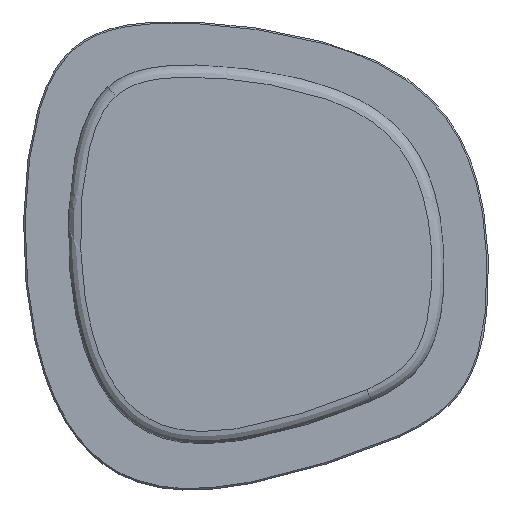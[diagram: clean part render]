
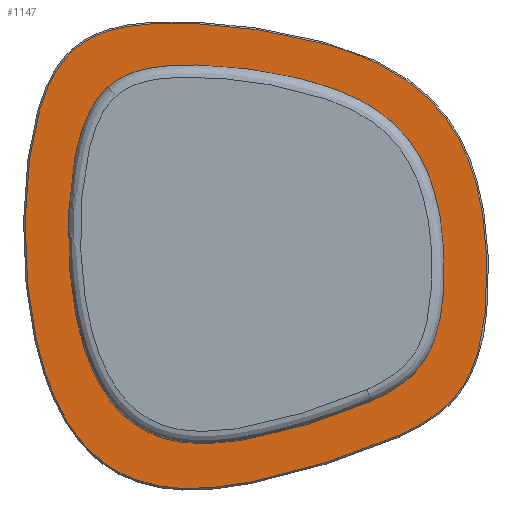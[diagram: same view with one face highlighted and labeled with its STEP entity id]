
A CAD part, top view. The second image highlights one B-rep face of the part: STEP entity #1147.
In plain terms, the highlighted planar face has unit normal (0, 0, 1).
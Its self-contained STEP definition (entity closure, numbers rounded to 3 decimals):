
#73=B_SPLINE_CURVE_WITH_KNOTS('',3,(#9728,#9729,#9730,#9731,#9732,#9733,
#9734,#9735,#9736,#9737,#9738,#9739,#9740,#9741,#9742,#9743,#9744,#9745,
#9746,#9747,#9748,#9749,#9750,#9751,#9752,#9753,#9754,#9755,#9756,#9757,
#9758,#9759,#9760,#9761,#9762,#9763,#9764,#9765),.UNSPECIFIED.,.F.,.F.,
(4,1,1,1,1,1,1,1,1,1,1,1,1,1,1,1,1,1,1,1,1,1,1,1,1,1,1,1,1,1,1,1,1,1,1,
4),(0.,11.586,23.172,36.366,49.56,
80.641,97.985,115.33,133.346,151.363,
168.893,186.422,219.047,234.185,249.323,
264.049,278.775,293.869,308.962,339.991,
355.234,370.478,384.53,398.582,423.123,
428.447,433.771,439.095,444.419,454.543,
459.605,464.667,470.221,475.776,486.884,
499.933),.UNSPECIFIED.);
#81=B_SPLINE_CURVE_WITH_KNOTS('',3,(#9866,#9867,#9868,#9869,#9870,#9871,
#9872,#9873,#9874,#9875,#9876,#9877,#9878,#9879,#9880,#9881,#9882,#9883,
#9884,#9885,#9886,#9887,#9888,#9889,#9890,#9891,#9892,#9893,#9894,#9895,
#9896,#9897,#9898,#9899),.UNSPECIFIED.,.F.,.F.,(4,1,1,1,1,1,1,1,1,1,1,1,
1,1,1,1,1,1,1,1,1,1,1,1,1,1,1,1,1,1,1,4),(499.933,512.982,
520.527,528.071,543.16,559.721,576.282,
593.33,610.378,626.855,643.333,658.713,
674.093,689.017,703.941,720.008,736.075,
754.493,772.911,793.592,814.274,835.998,
857.723,899.662,908.91,918.158,927.406,
936.654,951.755,966.855,979.106,991.356),
 .UNSPECIFIED.);
#1147=ADVANCED_FACE('',(#1654),#7482,.T.);
#1654=FACE_OUTER_BOUND('',#2161,.T.);
#2161=EDGE_LOOP('',(#2695,#2696));
#2695=ORIENTED_EDGE('',*,*,#5102,.F.);
#2696=ORIENTED_EDGE('',*,*,#5094,.F.);
#5094=EDGE_CURVE('',#6736,#6741,#73,.T.);
#5102=EDGE_CURVE('',#6741,#6736,#81,.T.);
#6736=VERTEX_POINT('',#9688);
#6741=VERTEX_POINT('',#9693);
#7482=PLANE('',#7958);
#7958=AXIS2_PLACEMENT_3D('',#9334,#8527,$);
#8527=DIRECTION('',(0.,0.,1.));
#9334=CARTESIAN_POINT('',(-178.075,193.173,8.));
#9688=CARTESIAN_POINT('',(-107.392,136.376,8.));
#9693=CARTESIAN_POINT('',(104.549,-115.299,8.));
#9728=CARTESIAN_POINT('',(-107.392,136.376,8.));
#9729=CARTESIAN_POINT('',(-104.507,138.943,8.));
#9730=CARTESIAN_POINT('',(-98.177,143.447,8.));
#9731=CARTESIAN_POINT('',(-87.049,148.379,8.));
#9732=CARTESIAN_POINT('',(-74.757,151.54,8.));
#9733=CARTESIAN_POINT('',(-55.743,154.065,8.));
#9734=CARTESIAN_POINT('',(-35.152,154.128,8.));
#9735=CARTESIAN_POINT('',(-13.282,152.742,8.));
#9736=CARTESIAN_POINT('',(4.196,150.849,8.));
#9737=CARTESIAN_POINT('',(21.796,148.244,8.));
#9738=CARTESIAN_POINT('',(39.329,144.833,8.));
#9739=CARTESIAN_POINT('',(56.506,140.568,8.));
#9740=CARTESIAN_POINT('',(78.019,133.746,8.));
#9741=CARTESIAN_POINT('',(97.955,124.772,8.));
#9742=CARTESIAN_POINT('',(115.328,112.931,8.));
#9743=CARTESIAN_POINT('',(126.519,102.899,8.));
#9744=CARTESIAN_POINT('',(136.109,91.488,8.));
#9745=CARTESIAN_POINT('',(144.01,78.879,8.));
#9746=CARTESIAN_POINT('',(150.289,65.258,8.));
#9747=CARTESIAN_POINT('',(156.726,45.864,8.));
#9748=CARTESIAN_POINT('',(160.427,25.678,8.));
#9749=CARTESIAN_POINT('',(162.179,5.248,8.));
#9750=CARTESIAN_POINT('',(162.582,-9.603,8.));
#9751=CARTESIAN_POINT('',(162.195,-24.051,8.));
#9752=CARTESIAN_POINT('',(160.704,-41.542,8.));
#9753=CARTESIAN_POINT('',(158.056,-55.985,8.));
#9754=CARTESIAN_POINT('',(154.423,-67.155,8.));
#9755=CARTESIAN_POINT('',(152.469,-72.106,8.));
#9756=CARTESIAN_POINT('',(150.207,-76.932,8.));
#9757=CARTESIAN_POINT('',(146.812,-82.971,8.));
#9758=CARTESIAN_POINT('',(142.796,-88.529,8.));
#9759=CARTESIAN_POINT('',(138.232,-93.507,8.));
#9760=CARTESIAN_POINT('',(134.431,-97.099,8.));
#9761=CARTESIAN_POINT('',(130.26,-100.518,8.));
#9762=CARTESIAN_POINT('',(124.24,-104.838,8.));
#9763=CARTESIAN_POINT('',(115.736,-109.935,8.));
#9764=CARTESIAN_POINT('',(108.505,-113.492,8.));
#9765=CARTESIAN_POINT('',(104.549,-115.299,8.));
#9866=CARTESIAN_POINT('',(104.549,-115.299,8.));
#9867=CARTESIAN_POINT('',(100.592,-117.106,8.));
#9868=CARTESIAN_POINT('',(94.267,-119.778,8.));
#9869=CARTESIAN_POINT('',(85.521,-123.167,8.));
#9870=CARTESIAN_POINT('',(76.076,-126.629,8.));
#9871=CARTESIAN_POINT('',(63.708,-130.843,8.));
#9872=CARTESIAN_POINT('',(48.367,-135.633,8.));
#9873=CARTESIAN_POINT('',(32.262,-140.152,8.));
#9874=CARTESIAN_POINT('',(15.857,-144.157,8.));
#9875=CARTESIAN_POINT('',(-0.698,-147.378,8.));
#9876=CARTESIAN_POINT('',(-17.239,-149.51,8.));
#9877=CARTESIAN_POINT('',(-33.358,-150.171,8.));
#9878=CARTESIAN_POINT('',(-49.092,-148.999,8.));
#9879=CARTESIAN_POINT('',(-64.008,-145.659,8.));
#9880=CARTESIAN_POINT('',(-77.979,-139.824,8.));
#9881=CARTESIAN_POINT('',(-90.781,-131.322,8.));
#9882=CARTESIAN_POINT('',(-102.019,-120.275,8.));
#9883=CARTESIAN_POINT('',(-111.89,-106.56,8.));
#9884=CARTESIAN_POINT('',(-120.026,-90.867,8.));
#9885=CARTESIAN_POINT('',(-126.772,-72.894,8.));
#9886=CARTESIAN_POINT('',(-131.926,-53.623,8.));
#9887=CARTESIAN_POINT('',(-135.7,-32.922,8.));
#9888=CARTESIAN_POINT('',(-138.097,-11.668,8.));
#9889=CARTESIAN_POINT('',(-139.566,16.767,8.));
#9890=CARTESIAN_POINT('',(-138.849,41.098,8.));
#9891=CARTESIAN_POINT('',(-136.786,61.141,8.));
#9892=CARTESIAN_POINT('',(-135.536,70.305,8.));
#9893=CARTESIAN_POINT('',(-133.983,79.423,8.));
#9894=CARTESIAN_POINT('',(-131.644,90.378,8.));
#9895=CARTESIAN_POINT('',(-128.086,103.05,8.));
#9896=CARTESIAN_POINT('',(-122.742,116.196,8.));
#9897=CARTESIAN_POINT('',(-115.928,127.547,8.));
#9898=CARTESIAN_POINT('',(-110.446,133.665,8.));
#9899=CARTESIAN_POINT('',(-107.392,136.376,8.));
